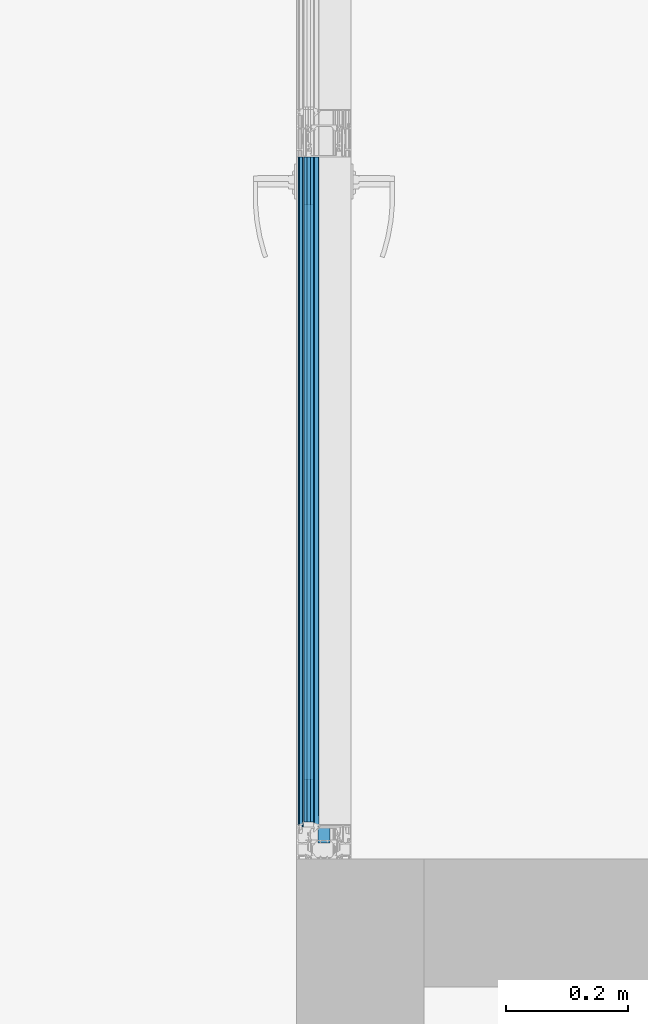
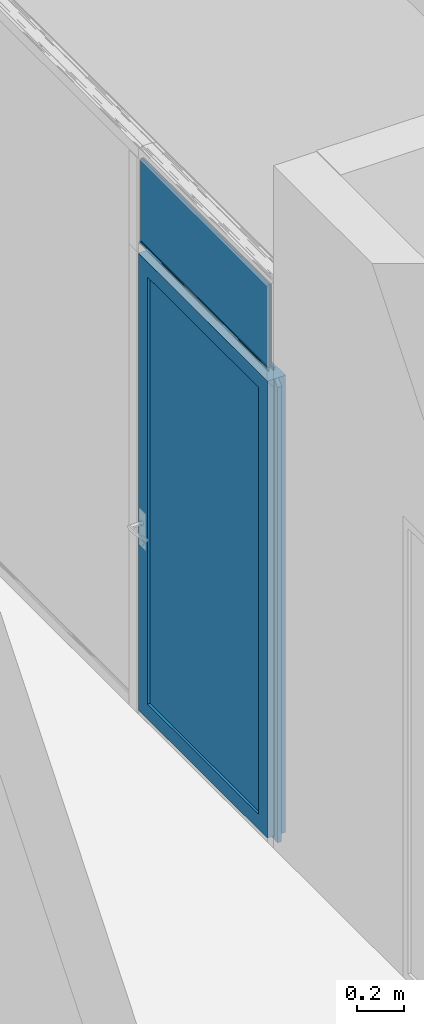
# One storey, part 44 of 62: 5 building element parts, 4 elements without a shape of their own.
"""IFC2X3 building model written with IfcOpenShell, lengths in millimetres."""

from ifc_helpers import new_model, entity, si_unit, converted_unit, derived_unit, money_unit, direction, frame, origin_with_axes, place, context, subcontext, project, spatial, faceted_brep, material, type_object, element, aggregate, save


model = new_model("IFC2X3")

# Units and contexts
model_context = context("Model", 3, precision=0.01, world=origin_with_axes(), true_north=direction((0.0, 1.0)))
body_context = subcontext(model_context, "Body", "Model", "MODEL_VIEW")
ifc_project = project(units=[si_unit("LENGTHUNIT", "METRE", prefix="MILLI"), si_unit("AREAUNIT", "SQUARE_METRE"), si_unit("VOLUMEUNIT", "CUBIC_METRE"), converted_unit("PLANEANGLEUNIT", "DEGREE", entity("IfcPlaneAngleMeasure", 0.0174532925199), si_unit("PLANEANGLEUNIT", "RADIAN"), dimensions=[0, 0, 0, 0, 0, 0, 0]), si_unit("SOLIDANGLEUNIT", "STERADIAN"), money_unit("EUR"), converted_unit("TIMEUNIT", "Year", entity("IfcTimeMeasure", 31556926.0), si_unit("TIMEUNIT", "SECOND"), dimensions=[0, 0, 1, 0, 0, 0, 0]), si_unit("MASSUNIT", "GRAM", prefix="KILO"), si_unit("THERMODYNAMICTEMPERATUREUNIT", "DEGREE_CELSIUS"), si_unit("LUMINOUSINTENSITYUNIT", "LUMEN"), si_unit("ENERGYUNIT", "JOULE", prefix="MEGA"), derived_unit("THERMALCONDUCTANCEUNIT", [(si_unit("POWERUNIT", "WATT"), 1), (si_unit("LENGTHUNIT", "METRE"), -1), (si_unit("THERMODYNAMICTEMPERATUREUNIT", "KELVIN"), -1)]), derived_unit("SPECIFICHEATCAPACITYUNIT", [(si_unit("ENERGYUNIT", "JOULE"), 1), (si_unit("MASSUNIT", "GRAM", prefix="KILO"), -1), (si_unit("THERMODYNAMICTEMPERATUREUNIT", "KELVIN"), -1)]), derived_unit("MASSDENSITYUNIT", [(si_unit("MASSUNIT", "GRAM", prefix="KILO"), 1), (si_unit("VOLUMEUNIT", "CUBIC_METRE"), -1)])], contexts=[model_context])

# Site, building, storey
site_placement = place(None, origin_with_axes())
site = spatial("IfcSite", under=ifc_project, at=site_placement, Name="Puškini 31, Narva", CompositionType="ELEMENT")
building_placement = place(site_placement, origin_with_axes())
building = spatial("IfcBuilding", under=site, at=building_placement, Name="Narva Riigigümnaasium", CompositionType="ELEMENT")
storey_placement = place(building_placement, frame((0.0, 0.0, 660.0), z_axis=(0.0, 0.0, 1.0), x_axis=(1.0, 0.0, 0.0)))
storey = spatial("IfcBuildingStorey", under=building, at=storey_placement, Name="2.korrus +0.66", CompositionType="ELEMENT", Elevation=660.0)

# Curtain wall, door, building element parts, plate, member
curtain_wall_type = type_object("IfcCurtainWallType", Name="Curtain Wall Type", PredefinedType="NOTDEFINED")
curtain_wall_placement = place(storey_placement, frame((47544.998162, 221675.502168, -2.45869393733e-05), z_axis=(0.0, 0.0, 1.0), x_axis=(1.0, 0.0, 0.0)))
curtain_wall = element("IfcCurtainWall", 1, at=curtain_wall_placement, inside=storey, type_object=curtain_wall_type, Name="G-SKLF-51")
door_style = type_object("IfcDoorStyle", Name="1087 x 2349 x 20", ConstructionType="NOTDEFINED", OperationType="NOTDEFINED", ParameterTakesPrecedence=False, Sizeable=False)
door_placement = place(curtain_wall_placement, frame((0.0, 0.0, 800.000008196), z_axis=(0.0, 0.0, 1.0), x_axis=(-4.28853941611e-06, 0.999999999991, 0.0)))
door = element("IfcDoor", 2, at=door_placement, type_object=door_style, Name="G-SKLF-51-U1", ObjectType="DOOR")
ifc_material_1 = material(Name="Alumiiniumprofiil")
building_element_part_1_placement = place(door_placement, origin_with_axes())
building_element_part_1 = element("IfcBuildingElementPart", 3, at=building_element_part_1_placement, material=ifc_material_1, Name="Alumiiniumprofiil", context=body_context, shape_type="Brep", body=[
    faceted_brep([(718.319806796, -10.0, -800.000008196), (-368.702341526, -10.0, -800.000008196), (-368.702341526, 10.0, -800.000008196), (718.319806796, 10.0, -800.000008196), (759.502197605, -10.0, -780.000007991), (-342.302334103, -10.0, -780.000007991), (-342.302334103, 10.0, -780.000007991), (759.502197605, 9.99999999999, -780.000007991)], [[[0, 1, 2, 3]], [[0, 4, 5, 1]], [[1, 5, 6, 2]], [[3, 2, 6, 7]], [[4, 0, 3, 7]], [[5, 4, 7, 6]]]),
    faceted_brep([(-368.702341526, -10.0, -800.000008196), (-368.702341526, -10.0, 1569.4176543), (-368.702341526, 10.0, 1569.4176543), (-368.702341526, 10.0, -800.000008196), (-342.302334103, -10.0, -780.000007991), (-342.302334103, -10.0, 1600.00001639), (-342.302334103, 10.0, 1600.00001639), (-342.302334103, 10.0, -780.000007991)], [[[0, 1, 2, 3]], [[0, 4, 5, 1]], [[1, 5, 6, 2]], [[3, 2, 6, 7]], [[4, 0, 3, 7]], [[5, 4, 7, 6]]]),
    faceted_brep([(-342.302334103, -10.0, 1600.00001639), (759.502197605, -10.0, 1600.00001639), (759.502197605, 9.99999999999, 1600.00001639), (-342.302334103, 10.0, 1600.00001639), (-368.702341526, -10.0, 1569.4176543), (718.319806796, -10.0, 1569.4176543), (718.319806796, 10.0, 1569.4176543), (-368.702341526, 10.0, 1569.4176543)], [[[0, 1, 2, 3]], [[0, 4, 5, 1]], [[1, 5, 6, 2]], [[3, 2, 6, 7]], [[4, 0, 3, 7]], [[5, 4, 7, 6]]]),
    faceted_brep([(759.502197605, -10.0, 1600.00001639), (759.502197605, -10.0, -780.000007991), (759.502197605, 9.99999999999, -780.000007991), (759.502197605, 9.99999999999, 1600.00001639), (718.319806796, -10.0, 1569.4176543), (718.319806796, -10.0, -800.000008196), (718.319806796, 10.0, -800.000008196), (718.319806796, 10.0, 1569.4176543)], [[[0, 1, 2, 3]], [[0, 4, 5, 1]], [[1, 5, 6, 2]], [[3, 2, 6, 7]], [[4, 0, 3, 7]], [[5, 4, 7, 6]]]),
    faceted_brep([(681.502197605, 45.0, -702.000007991), (681.502197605, -45.0, -702.000007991), (681.502197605, -45.0, 1522.00001639), (681.502197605, 45.0, 1522.00001639), (759.502197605, 45.0, -780.000007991), (759.502197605, -45.0, -780.000007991), (759.502197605, -45.0, 1600.00001639), (759.502197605, 45.0, 1600.00001639)], [[[0, 1, 2, 3]], [[4, 5, 1, 0]], [[1, 5, 6, 2]], [[3, 2, 6, 7]], [[0, 3, 7, 4]], [[7, 6, 5, 4]]]),
    faceted_brep([(-342.302334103, 45.0, -780.000007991), (-342.302334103, -45.0, -780.000007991), (-342.302334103, -45.0, 1600.00001639), (-342.302334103, 45.0, 1600.00001639), (-264.302334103, 45.0, -702.000007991), (-264.302334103, -45.0, -702.000007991), (-264.302334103, -45.0, 1522.00001639), (-264.302334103, 45.0, 1522.00001639)], [[[0, 1, 2, 3]], [[4, 5, 1, 0]], [[1, 5, 6, 2]], [[3, 2, 6, 7]], [[0, 3, 7, 4]], [[7, 6, 5, 4]]]),
    faceted_brep([(-342.302334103, 45.0, -780.000007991), (-342.302334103, -45.0, -780.000007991), (-264.302334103, -45.0, -702.000007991), (-264.302334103, 45.0, -702.000007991), (759.502197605, 45.0, -780.000007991), (759.502197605, -45.0, -780.000007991), (681.502197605, -45.0, -702.000007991), (681.502197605, 45.0, -702.000007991)], [[[0, 1, 2, 3]], [[4, 5, 1, 0]], [[1, 5, 6, 2]], [[3, 2, 6, 7]], [[0, 3, 7, 4]], [[7, 6, 5, 4]]]),
    faceted_brep([(759.502197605, 45.0, 1600.00001639), (759.502197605, -45.0, 1600.00001639), (681.502197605, -45.0, 1522.00001639), (681.502197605, 45.0, 1522.00001639), (-342.302334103, 45.0, 1600.00001639), (-342.302334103, -45.0, 1600.00001639), (-264.302334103, -45.0, 1522.00001639), (-264.302334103, 45.0, 1522.00001639)], [[[0, 1, 2, 3]], [[4, 5, 1, 0]], [[1, 5, 6, 2]], [[3, 2, 6, 7]], [[0, 3, 7, 4]], [[7, 6, 5, 4]]]),
])
ifc_material_2 = material(Name="VKR-05_Klaas")
building_element_part_2_placement = place(door_placement, origin_with_axes())
building_element_part_2 = element("IfcBuildingElementPart", 4, at=building_element_part_2_placement, material=ifc_material_2, Name="VKR-05_Klaas", context=body_context, shape_type="Brep", body=[
    faceted_brep([(681.502197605, 33.0, -702.000007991), (681.502197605, 17.0, -702.000007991), (-264.302334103, 17.0, -702.000007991), (-264.302334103, 33.0, -702.000007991), (681.502197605, 33.0, 1522.00001639), (681.502197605, 17.0, 1522.00001639), (-264.302334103, 17.0, 1522.00001639), (-264.302334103, 33.0, 1522.00001639)], [[[0, 1, 2, 3]], [[4, 5, 1, 0]], [[1, 5, 6, 2]], [[3, 2, 6, 7]], [[0, 3, 7, 4]], [[7, 6, 5, 4]]]),
])
aggregate(door, [building_element_part_1, building_element_part_2])
plate_type = type_object("IfcPlateType", Name="1083 x 489 x 20", PredefinedType="CURTAIN_PANEL")
plate_placement = place(curtain_wall_placement, frame((-0.000780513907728, 181.999939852, 2675.00002033), z_axis=(0.0, 0.0, 1.0), x_axis=(-4.28853941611e-06, 0.999999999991, 0.0)))
plate = element("IfcPlate", 5, at=plate_placement, type_object=plate_type, Name="G-SKLF-51-klaas", ObjectType="CURTAIN_PANEL")
building_element_part_3_placement = place(plate_placement, origin_with_axes())
building_element_part_3 = element("IfcBuildingElementPart", 6, at=building_element_part_3_placement, material=ifc_material_2, Name="VKR-05_Klaas", context=body_context, shape_type="Brep", body=[
    faceted_brep([(-516.337556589, 17.0, 213.835277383), (577.502257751, 17.0, 213.835294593), (577.502257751, 22.0, 213.835294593), (-516.337556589, 22.0, 213.835277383), (-516.337556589, 17.0, -213.83529458), (577.502257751, 17.0, -213.83529458), (577.502257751, 22.0, -213.83529458), (-516.337556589, 22.0, -213.83529458)], [[[0, 1, 2, 3]], [[0, 4, 5, 1]], [[1, 5, 6, 2]], [[3, 2, 6, 7]], [[4, 0, 3, 7]], [[5, 4, 7, 6]]]),
    faceted_brep([(-516.337556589, 28.0, 213.835277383), (577.502257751, 28.0, 213.835294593), (577.502257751, 33.0, 213.835294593), (-516.337556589, 33.0, 213.835277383), (-516.337556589, 28.0, -213.83529458), (577.502257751, 28.0, -213.83529458), (577.502257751, 33.0, -213.83529458), (-516.337556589, 33.0, -213.83529458)], [[[0, 1, 2, 3]], [[0, 4, 5, 1]], [[1, 5, 6, 2]], [[3, 2, 6, 7]], [[4, 0, 3, 7]], [[5, 4, 7, 6]]]),
])
ifc_material_3 = material(Name="VKR-06_Õhkvahe")
building_element_part_4_placement = place(plate_placement, origin_with_axes())
building_element_part_4 = element("IfcBuildingElementPart", 7, at=building_element_part_4_placement, material=ifc_material_3, Name="VKR-06_Õhkvahe", context=body_context, shape_type="Brep", body=[
    faceted_brep([(-516.337556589, 22.0, 213.835277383), (577.502257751, 22.0, 213.835294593), (577.502257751, 28.0, 213.835294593), (-516.337556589, 28.0, 213.835277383), (-516.337556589, 22.0, -213.83529458), (577.502257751, 22.0, -213.83529458), (577.502257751, 28.0, -213.83529458), (-516.337556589, 28.0, -213.83529458)], [[[0, 1, 2, 3]], [[0, 4, 5, 1]], [[1, 5, 6, 2]], [[3, 2, 6, 7]], [[4, 0, 3, 7]], [[5, 4, 7, 6]]]),
])
aggregate(plate, [building_element_part_3, building_element_part_4])
member_type = type_object("IfcMemberType", Name="61 x 45", PredefinedType="MULLION")
member_placement = place(curtain_wall_placement, frame((-0.00325715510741, 759.502197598, 2400.00002459), z_axis=(4.28853941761e-06, -0.999999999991, 0.0), x_axis=(0.0, 0.0, 1.0)))
member = element("IfcMember", 8, at=member_placement, type_object=member_type, Name="G-SKLF-51-raam", ObjectType="MULLION")
aggregate(curtain_wall, [door, member, plate])
ifc_material_4 = material(Name="Membraan - Veekindel")
building_element_part_5_placement = place(member_placement, origin_with_axes())
building_element_part_5 = element("IfcBuildingElementPart", 9, at=building_element_part_5_placement, material=ifc_material_4, Name="Membraan - Veekindel", context=body_context, shape_type="Brep", body=[
    faceted_brep([(61.0413385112, 34.3890442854, 0.0), (59.5800222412, 34.73794757, 0.0), (59.5800222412, 34.73794757, 1101.80451561), (61.0413385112, 34.3890442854, 1101.80451561), (61.1536677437, 34.1934467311, 0.0), (61.1423164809, 33.9681748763, 0.0), (61.0108941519, 33.784859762, 0.0), (60.7381535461, 33.9217644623, 0.0), (59.8409257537, 34.1343131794, 0.0), (58.2346494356, 34.5489145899, 0.0), (56.9567944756, 35.6067920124, 0.0), (56.2495873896, 37.1074172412, 0.0), (56.1542959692, 37.3107917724, 0.0), (55.9795989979, 37.4519392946, 0.0), (55.7607444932, 37.5023809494, 0.0), (55.1093263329, 37.5023809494, 0.0), (54.8593263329, 37.4353936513, 0.0), (54.676313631, 37.2523809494, 0.0), (54.2721684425, 36.5523809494, 0.0), (54.0891557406, 36.3693682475, 0.0), (53.8391557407, 36.3023809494, 0.0), (51.602145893, 36.3023809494, 0.0), (51.352145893, 36.3693682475, 0.0), (51.1691331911, 36.5523809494, 0.0), (50.7649880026, 37.2523809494, 0.0), (50.5819753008, 37.4353936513, 0.0), (50.3319753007, 37.5023809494, 0.0), (49.2206527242, 37.5023809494, 0.0), (48.9706527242, 37.5693682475, 0.0), (48.7876400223, 37.7523809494, 0.0), (48.7206527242, 38.0023809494, 0.0), (48.7206527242, 39.1999494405, 0.0), (50.10004, 39.1999494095, 0.0), (50.1670287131, 38.9499497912, 0.0), (50.3500424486, 38.7669381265, 0.0), (50.6000428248, 38.699952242, 0.0), (50.8500424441, 38.7669409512, 0.0), (51.0330541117, 38.9499546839, 0.0), (51.10004, 39.1999550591, 0.0), (51.10004, 40.4999366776, 0.0), (51.0598476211, 40.6499366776, 0.0), (50.95004, 40.7597442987, 0.0), (50.80004, 40.7999366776, 0.0), (50.7000457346, 40.7999366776, 0.0), (50.5334025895, 40.8504763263, 0.0), (50.4229059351, 40.9850671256, 0.0), (50.4057850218, 41.1583618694, 0.0), (50.4878083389, 41.3119729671, 0.0), (51.5281601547, 42.3533311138, 0.0), (51.6904310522, 42.4618421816, 0.0), (51.8818844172, 42.4999486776, 0.0), (53.517932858, 42.4999486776, 0.0), (53.7093558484, 42.4618547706, 0.0), (53.8716106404, 42.3533776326, 0.0), (54.9122350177, 41.3120206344, 0.0), (54.9942836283, 41.1584047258, 0.0), (54.9771753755, 40.9850924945, 0.0), (54.866675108, 40.850483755, 0.0), (54.7000173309, 40.7999366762, 0.0), (54.6000210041, 40.7999366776, 0.0), (54.4500210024, 40.7597443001, 0.0), (54.3402133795, 40.6499366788, 0.0), (54.300021, 40.4999366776, 0.0), (54.300021, 39.1999606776, 0.0), (54.3670082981, 38.9499606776, 0.0), (54.5500210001, 38.7669479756, 0.0), (54.8000210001, 38.6999606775, 0.0), (55.0500210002, 38.7669479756, 0.0), (55.2330337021, 38.9499606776, 0.0), (55.3000210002, 39.1999606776, 0.0), (57.3000022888, 39.1999494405, 0.0), (57.3000022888, 39.9999846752, 0.0), (57.5000161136, 39.946391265, 0.0), (57.6464370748, 39.799971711, 0.0), (57.7000324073, 39.5999584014, 0.0), (57.9693613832, 36.5265882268, 0.0), (58.4755028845, 35.3628499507, 0.0), (53.5000340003, 40.7999553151, 0.0), (53.4330491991, 41.0499459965, 0.0), (53.2500433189, 41.2329518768, 0.0), (53.0000526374, 41.299936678, 0.0), (52.4000083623, 41.299936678, 0.0), (52.150017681, 41.2329518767, 0.0), (51.9670118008, 41.0499459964, 0.0), (51.9000269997, 40.799955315, 0.0), (51.9000269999, 39.6999268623, 0.0), (51.9670129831, 39.4499317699, 0.0), (52.1500220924, 39.2669226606, 0.0), (52.4000171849, 39.1999366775, 0.0), (53.0000438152, 39.1999366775, 0.0), (53.2500389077, 39.2669226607, 0.0), (53.433048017, 39.44993177, 0.0), (58.4755028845, 35.3628499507, 1101.80451561), (57.9693613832, 36.5265882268, 1101.80451562), (57.7000324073, 39.5999584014, 1101.80451562), (57.6464370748, 39.799971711, 1101.80451563), (57.5000161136, 39.946391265, 1101.80451563), (57.3000022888, 39.9999846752, 1101.80451563), (57.3000022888, 39.1999494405, 1101.80451562), (55.3000210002, 39.1999606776, 1101.80451562), (55.2330337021, 38.9499606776, 1101.80451562), (55.0500210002, 38.7669479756, 1101.80451562), (54.8000210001, 38.6999606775, 1101.80451562), (54.5500210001, 38.7669479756, 1101.80451562), (54.3670082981, 38.9499606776, 1101.80451562), (54.300021, 39.1999606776, 1101.80451562), (54.300021, 40.4999366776, 1101.80451563), (54.3402133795, 40.6499366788, 1101.80451563), (54.4500210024, 40.7597443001, 1101.80451563), (54.6000210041, 40.7999366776, 1101.80451563), (54.7000173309, 40.7999366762, 1101.80451563), (54.866675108, 40.850483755, 1101.80451563), (54.9771753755, 40.9850924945, 1101.80451563), (54.9942836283, 41.1584047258, 1101.80451563), (54.9122350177, 41.3120206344, 1101.80451563), (53.8716106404, 42.3533776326, 1101.80451563), (53.7093558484, 42.4618547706, 1101.80451563), (53.517932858, 42.4999486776, 1101.80451563), (51.8818844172, 42.4999486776, 1101.80451563), (51.6904310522, 42.4618421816, 1101.80451563), (51.5281601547, 42.3533311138, 1101.80451563), (50.4878083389, 41.3119729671, 1101.80451563), (50.4057850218, 41.1583618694, 1101.80451563), (50.4229059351, 40.9850671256, 1101.80451563), (50.5334025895, 40.8504763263, 1101.80451563), (50.7000457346, 40.7999366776, 1101.80451563), (50.80004, 40.7999366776, 1101.80451563), (50.95004, 40.7597442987, 1101.80451563), (51.0598476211, 40.6499366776, 1101.80451563), (51.10004, 40.4999366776, 1101.80451563), (51.10004, 39.1999550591, 1101.80451562), (51.0330541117, 38.9499546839, 1101.80451562), (50.8500424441, 38.7669409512, 1101.80451562), (50.6000428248, 38.699952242, 1101.80451562), (50.3500424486, 38.7669381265, 1101.80451562), (50.1670287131, 38.9499497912, 1101.80451562), (50.10004, 39.1999494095, 1101.80451562), (48.7206527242, 39.1999494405, 1101.80451562), (48.7206527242, 38.0023809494, 1101.80451562), (48.7876400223, 37.7523809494, 1101.80451562), (48.9706527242, 37.5693682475, 1101.80451562), (49.2206527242, 37.5023809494, 1101.80451562), (50.3319753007, 37.5023809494, 1101.80451562), (50.5819753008, 37.4353936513, 1101.80451562), (50.7649880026, 37.2523809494, 1101.80451562), (51.1691331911, 36.5523809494, 1101.80451562), (51.352145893, 36.3693682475, 1101.80451561), (51.602145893, 36.3023809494, 1101.80451561), (53.8391557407, 36.3023809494, 1101.80451561), (54.0891557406, 36.3693682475, 1101.80451561), (54.2721684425, 36.5523809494, 1101.80451562), (54.676313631, 37.2523809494, 1101.80451562), (54.8593263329, 37.4353936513, 1101.80451562), (55.1093263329, 37.5023809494, 1101.80451562), (55.7607444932, 37.5023809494, 1101.80451562), (55.9795989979, 37.4519392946, 1101.80451562), (56.1542959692, 37.3107917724, 1101.80451562), (56.2495873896, 37.1074172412, 1101.80451562), (56.9567944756, 35.6067920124, 1101.80451561), (58.2346494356, 34.5489145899, 1101.80451561), (59.8409257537, 34.1343131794, 1101.80451561), (60.7381535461, 33.9217644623, 1101.80451561), (61.0108941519, 33.784859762, 1101.80451561), (61.1423164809, 33.9681748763, 1101.80451561), (61.1536677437, 34.1934467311, 1101.80451561), (53.5000340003, 40.7999553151, 1101.80451563), (53.433048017, 39.44993177, 1101.80451562), (53.2500389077, 39.2669226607, 1101.80451562), (53.0000438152, 39.1999366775, 1101.80451562), (52.4000171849, 39.1999366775, 1101.80451562), (52.1500220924, 39.2669226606, 1101.80451562), (51.9670129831, 39.4499317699, 1101.80451562), (51.9000269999, 39.6999268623, 1101.80451563), (51.9000269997, 40.799955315, 1101.80451563), (51.9670118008, 41.0499459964, 1101.80451563), (52.150017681, 41.2329518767, 1101.80451563), (52.4000083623, 41.299936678, 1101.80451563), (53.0000526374, 41.299936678, 1101.80451563), (53.2500433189, 41.2329518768, 1101.80451563), (53.4330491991, 41.0499459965, 1101.80451563)], [[[0, 1, 2, 3]], [[0, 4, 5, 6, 7, 8, 9, 10, 11, 12, 13, 14, 15, 16, 17, 18, 19, 20, 21, 22, 23, 24, 25, 26, 27, 28, 29, 30, 31, 32, 33, 34, 35, 36, 37, 38, 39, 40, 41, 42, 43, 44, 45, 46, 47, 48, 49, 50, 51, 52, 53, 54, 55, 56, 57, 58, 59, 60, 61, 62, 63, 64, 65, 66, 67, 68, 69, 70, 71, 72, 73, 74, 75, 76, 1], [77, 78, 79, 80, 81, 82, 83, 84, 85, 86, 87, 88, 89, 90, 91]], [[1, 76, 92, 2]], [[3, 2, 92, 93, 94, 95, 96, 97, 98, 99, 100, 101, 102, 103, 104, 105, 106, 107, 108, 109, 110, 111, 112, 113, 114, 115, 116, 117, 118, 119, 120, 121, 122, 123, 124, 125, 126, 127, 128, 129, 130, 131, 132, 133, 134, 135, 136, 137, 138, 139, 140, 141, 142, 143, 144, 145, 146, 147, 148, 149, 150, 151, 152, 153, 154, 155, 156, 157, 158, 159, 160, 161, 162, 163, 164], [165, 166, 167, 168, 169, 170, 171, 172, 173, 174, 175, 176, 177, 178, 179]], [[4, 0, 3, 164]], [[5, 4, 164, 163]], [[6, 5, 163, 162]], [[7, 6, 162, 161]], [[8, 7, 161, 160]], [[9, 8, 160, 159]], [[10, 9, 159, 158]], [[11, 10, 158, 157]], [[12, 11, 157, 156]], [[13, 12, 156, 155]], [[14, 13, 155, 154]], [[15, 14, 154, 153]], [[16, 15, 153, 152]], [[17, 16, 152, 151]], [[18, 17, 151, 150]], [[19, 18, 150, 149]], [[20, 19, 149, 148]], [[21, 20, 148, 147]], [[22, 21, 147, 146]], [[23, 22, 146, 145]], [[24, 23, 145, 144]], [[25, 24, 144, 143]], [[26, 25, 143, 142]], [[27, 26, 142, 141]], [[28, 27, 141, 140]], [[29, 28, 140, 139]], [[30, 29, 139, 138]], [[31, 30, 138, 137]], [[32, 31, 137, 136]], [[33, 32, 136, 135]], [[34, 33, 135, 134]], [[35, 34, 134, 133]], [[36, 35, 133, 132]], [[37, 36, 132, 131]], [[38, 37, 131, 130]], [[39, 38, 130, 129]], [[40, 39, 129, 128]], [[41, 40, 128, 127]], [[42, 41, 127, 126]], [[43, 42, 126, 125]], [[44, 43, 125, 124]], [[45, 44, 124, 123]], [[46, 45, 123, 122]], [[47, 46, 122, 121]], [[48, 47, 121, 120]], [[49, 48, 120, 119]], [[50, 49, 119, 118]], [[51, 50, 118, 117]], [[52, 51, 117, 116]], [[53, 52, 116, 115]], [[54, 53, 115, 114]], [[55, 54, 114, 113]], [[56, 55, 113, 112]], [[57, 56, 112, 111]], [[58, 57, 111, 110]], [[59, 58, 110, 109]], [[60, 59, 109, 108]], [[61, 60, 108, 107]], [[62, 61, 107, 106]], [[63, 62, 106, 105]], [[64, 63, 105, 104]], [[65, 64, 104, 103]], [[66, 65, 103, 102]], [[67, 66, 102, 101]], [[68, 67, 101, 100]], [[69, 68, 100, 99]], [[70, 69, 99, 98]], [[71, 70, 98, 97]], [[72, 71, 97, 96]], [[73, 72, 96, 95]], [[74, 73, 95, 94]], [[75, 74, 94, 93]], [[76, 75, 93, 92]], [[78, 77, 165, 179]], [[79, 78, 179, 178]], [[80, 79, 178, 177]], [[81, 80, 177, 176]], [[82, 81, 176, 175]], [[83, 82, 175, 174]], [[84, 83, 174, 173]], [[85, 84, 173, 172]], [[86, 85, 172, 171]], [[87, 86, 171, 170]], [[88, 87, 170, 169]], [[89, 88, 169, 168]], [[90, 89, 168, 167]], [[91, 90, 167, 166]], [[77, 91, 166, 165]]]),
    faceted_brep([(59.0307115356, 16.554149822, 0.0), (55.9926715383, 16.8063498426, 0.0), (55.9926715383, 16.8063498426, 1101.80451555), (59.0307115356, 16.554149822, 1101.80451555), (59.3884652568, 16.1092618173, 0.0), (59.5001582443, 15.5494067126, 0.0), (59.3405112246, 15.0012955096, 0.0), (57.5418652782, 10.0035930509, 0.0), (57.2632233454, 8.46932121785, 0.0), (57.1824204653, 8.36745448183, 0.0), (57.0661058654, 8.3093438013, 0.0), (56.9361285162, 8.30590490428, 0.0), (55.5361285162, 8.57803733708, 0.0), (55.4168250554, 8.62997353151, 0.0), (55.3307332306, 8.72753828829, 0.0), (55.2940485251, 8.85237785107, 0.0), (55.4099827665, 9.81272116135, 0.0), (55.3838261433, 9.9780831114, 0.0), (55.2731258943, 10.1036784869, 0.0), (55.1123574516, 10.1503930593, 0.0), (53.0580290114, 10.1503930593, 0.0), (52.8859560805, 10.0961386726, 0.0), (52.7761212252, 9.95299910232, 0.0), (52.3556584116, 8.79778701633, 0.0), (52.2574645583, 8.66326410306, 0.0), (52.1026310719, 8.60190419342, 0.0), (51.938943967, 8.6326446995, 0.0), (51.8169217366, 8.74599822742, 0.0), (45.6142070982, 15.4144760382, 0.0), (45.3418968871, 15.7688623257, 0.0), (45.3195226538, 16.2152275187, 0.0), (45.3889077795, 16.3899097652, 0.0), (45.6241929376, 16.6482027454, 0.0), (45.950966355, 16.7718696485, 0.0), (46.298307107, 16.7340705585, 0.0), (50.5536994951, 15.2121179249, 0.0), (50.8437237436, 15.0307134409, 0.0), (51.0558924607, 14.9074036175, 0.0), (51.3011765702, 14.8998814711, 0.0), (51.5205025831, 15.0099586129, 0.0), (53.1225200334, 16.3483062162, 0.0), (53.7899070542, 16.6230039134, 0.0), (53.7899070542, 16.6230039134, 1101.80451555), (53.1225200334, 16.3483062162, 1101.80451555), (51.5205025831, 15.0099586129, 1101.80451555), (51.3011765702, 14.8998814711, 1101.80451555), (51.0558924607, 14.9074036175, 1101.80451555), (50.8437237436, 15.0307134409, 1101.80451555), (50.5536994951, 15.2121179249, 1101.80451555), (46.298307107, 16.7340705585, 1101.80451555), (45.950966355, 16.7718696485, 1101.80451555), (45.6241929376, 16.6482027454, 1101.80451555), (45.3889077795, 16.3899097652, 1101.80451555), (45.3195226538, 16.2152275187, 1101.80451555), (45.3418968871, 15.7688623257, 1101.80451555), (45.6142070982, 15.4144760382, 1101.80451555), (51.8169217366, 8.74599822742, 1101.80451553), (51.938943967, 8.6326446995, 1101.80451553), (52.1026310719, 8.60190419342, 1101.80451553), (52.2574645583, 8.66326410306, 1101.80451553), (52.3556584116, 8.79778701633, 1101.80451553), (52.7761212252, 9.95299910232, 1101.80451553), (52.8859560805, 10.0961386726, 1101.80451553), (53.0580290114, 10.1503930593, 1101.80451553), (55.1123574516, 10.1503930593, 1101.80451553), (55.2731258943, 10.1036784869, 1101.80451553), (55.3838261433, 9.9780831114, 1101.80451553), (55.4099827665, 9.81272116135, 1101.80451553), (55.2940485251, 8.85237785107, 1101.80451553), (55.3307332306, 8.72753828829, 1101.80451553), (55.4168250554, 8.62997353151, 1101.80451553), (55.5361285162, 8.57803733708, 1101.80451553), (56.9361285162, 8.30590490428, 1101.80451553), (57.0661058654, 8.3093438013, 1101.80451553), (57.1824204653, 8.36745448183, 1101.80451553), (57.2632233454, 8.46932121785, 1101.80451553), (57.5418652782, 10.0035930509, 1101.80451553), (59.3405112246, 15.0012955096, 1101.80451555), (59.5001582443, 15.5494067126, 1101.80451555), (59.3884652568, 16.1092618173, 1101.80451555)], [[[0, 1, 2, 3]], [[0, 4, 5, 6, 7, 8, 9, 10, 11, 12, 13, 14, 15, 16, 17, 18, 19, 20, 21, 22, 23, 24, 25, 26, 27, 28, 29, 30, 31, 32, 33, 34, 35, 36, 37, 38, 39, 40, 41, 1]], [[1, 41, 42, 2]], [[3, 2, 42, 43, 44, 45, 46, 47, 48, 49, 50, 51, 52, 53, 54, 55, 56, 57, 58, 59, 60, 61, 62, 63, 64, 65, 66, 67, 68, 69, 70, 71, 72, 73, 74, 75, 76, 77, 78, 79]], [[4, 0, 3, 79]], [[5, 4, 79, 78]], [[6, 5, 78, 77]], [[7, 6, 77, 76]], [[8, 7, 76, 75]], [[9, 8, 75, 74]], [[10, 9, 74, 73]], [[11, 10, 73, 72]], [[12, 11, 72, 71]], [[13, 12, 71, 70]], [[14, 13, 70, 69]], [[15, 14, 69, 68]], [[16, 15, 68, 67]], [[17, 16, 67, 66]], [[18, 17, 66, 65]], [[19, 18, 65, 64]], [[20, 19, 64, 63]], [[21, 20, 63, 62]], [[22, 21, 62, 61]], [[23, 22, 61, 60]], [[24, 23, 60, 59]], [[25, 24, 59, 58]], [[26, 25, 58, 57]], [[27, 26, 57, 56]], [[28, 27, 56, 55]], [[29, 28, 55, 54]], [[30, 29, 54, 53]], [[31, 30, 53, 52]], [[32, 31, 52, 51]], [[33, 32, 51, 50]], [[34, 33, 50, 49]], [[35, 34, 49, 48]], [[36, 35, 48, 47]], [[37, 36, 47, 46]], [[38, 37, 46, 45]], [[39, 38, 45, 44]], [[40, 39, 44, 43]], [[41, 40, 43, 42]]]),
])
aggregate(member, [building_element_part_5])

save(model, "model.ifc")
